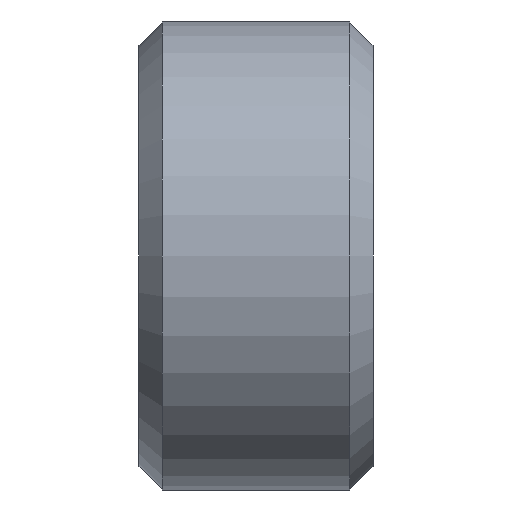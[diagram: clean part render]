
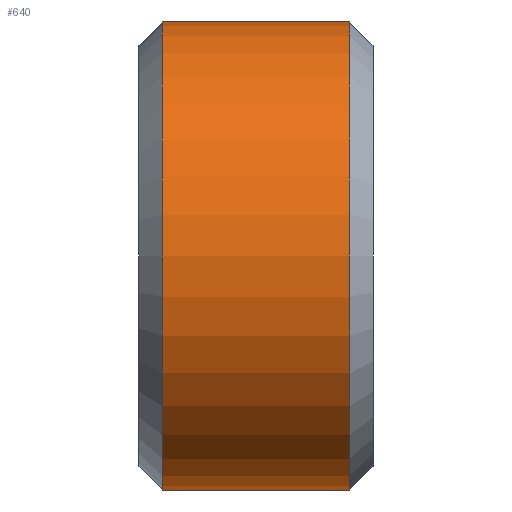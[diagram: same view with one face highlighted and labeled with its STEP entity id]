
A CAD part, left-side view. The second image highlights one B-rep face of the part: STEP entity #640.
In plain terms, the highlighted cylindrical face has radius 5 mm (diameter 10 mm), a partial arc.
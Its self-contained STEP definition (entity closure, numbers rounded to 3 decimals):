
#24 = CARTESIAN_POINT ( 'NONE',  ( 0., 4.5, 0. ) ) ;
#89 = CIRCLE ( 'NONE', #465, 5. ) ;
#90 = CARTESIAN_POINT ( 'NONE',  ( 0., 0.5, 5. ) ) ;
#92 = CARTESIAN_POINT ( 'NONE',  ( 0., 0., 0. ) ) ;
#133 = CARTESIAN_POINT ( 'NONE',  ( 0., 0.5, -5. ) ) ;
#171 = VERTEX_POINT ( 'NONE', #292 ) ;
#181 = CARTESIAN_POINT ( 'NONE',  ( 0., 0., -5. ) ) ;
#183 = ORIENTED_EDGE ( 'NONE', *, *, #474, .F. ) ;
#192 = CYLINDRICAL_SURFACE ( 'NONE', #387, 5. ) ;
#196 = DIRECTION ( 'NONE',  ( 0., 0., 1. ) ) ;
#206 = EDGE_LOOP ( 'NONE', ( #580, #456, #183, #467 ) ) ;
#257 = DIRECTION ( 'NONE',  ( 0., 1., 0. ) ) ;
#281 = DIRECTION ( 'NONE',  ( 0., -1., 0. ) ) ;
#284 = DIRECTION ( 'NONE',  ( 0., 1., 0. ) ) ;
#290 = VECTOR ( 'NONE', #257, 1000. ) ;
#292 = CARTESIAN_POINT ( 'NONE',  ( 0., 4.5, 5. ) ) ;
#305 = DIRECTION ( 'NONE',  ( 0., 1., 0. ) ) ;
#378 = DIRECTION ( 'NONE',  ( 0., 0., 1. ) ) ;
#387 = AXIS2_PLACEMENT_3D ( 'NONE', #92, #503, #196 ) ;
#395 = VERTEX_POINT ( 'NONE', #133 ) ;
#404 = LINE ( 'NONE', #623, #290 ) ;
#420 = EDGE_CURVE ( 'NONE', #171, #629, #469, .T. ) ;
#435 = AXIS2_PLACEMENT_3D ( 'NONE', #24, #281, #378 ) ;
#456 = ORIENTED_EDGE ( 'NONE', *, *, #420, .T. ) ;
#465 = AXIS2_PLACEMENT_3D ( 'NONE', #667, #305, #515 ) ;
#467 = ORIENTED_EDGE ( 'NONE', *, *, #611, .T. ) ;
#469 = CIRCLE ( 'NONE', #435, 5. ) ;
#474 = EDGE_CURVE ( 'NONE', #395, #629, #490, .T. ) ;
#490 = LINE ( 'NONE', #181, #540 ) ;
#498 = FACE_OUTER_BOUND ( 'NONE', #206, .T. ) ;
#503 = DIRECTION ( 'NONE',  ( 0., 1., 0. ) ) ;
#515 = DIRECTION ( 'NONE',  ( 0., 0., 1. ) ) ;
#540 = VECTOR ( 'NONE', #284, 1000. ) ;
#560 = EDGE_CURVE ( 'NONE', #635, #171, #404, .T. ) ;
#580 = ORIENTED_EDGE ( 'NONE', *, *, #560, .T. ) ;
#611 = EDGE_CURVE ( 'NONE', #395, #635, #89, .T. ) ;
#623 = CARTESIAN_POINT ( 'NONE',  ( 0., 0., 5. ) ) ;
#629 = VERTEX_POINT ( 'NONE', #664 ) ;
#635 = VERTEX_POINT ( 'NONE', #90 ) ;
#640 = ADVANCED_FACE ( 'NONE', ( #498 ), #192, .T. ) ;
#664 = CARTESIAN_POINT ( 'NONE',  ( 0., 4.5, -5. ) ) ;
#667 = CARTESIAN_POINT ( 'NONE',  ( 0., 0.5, 0. ) ) ;
